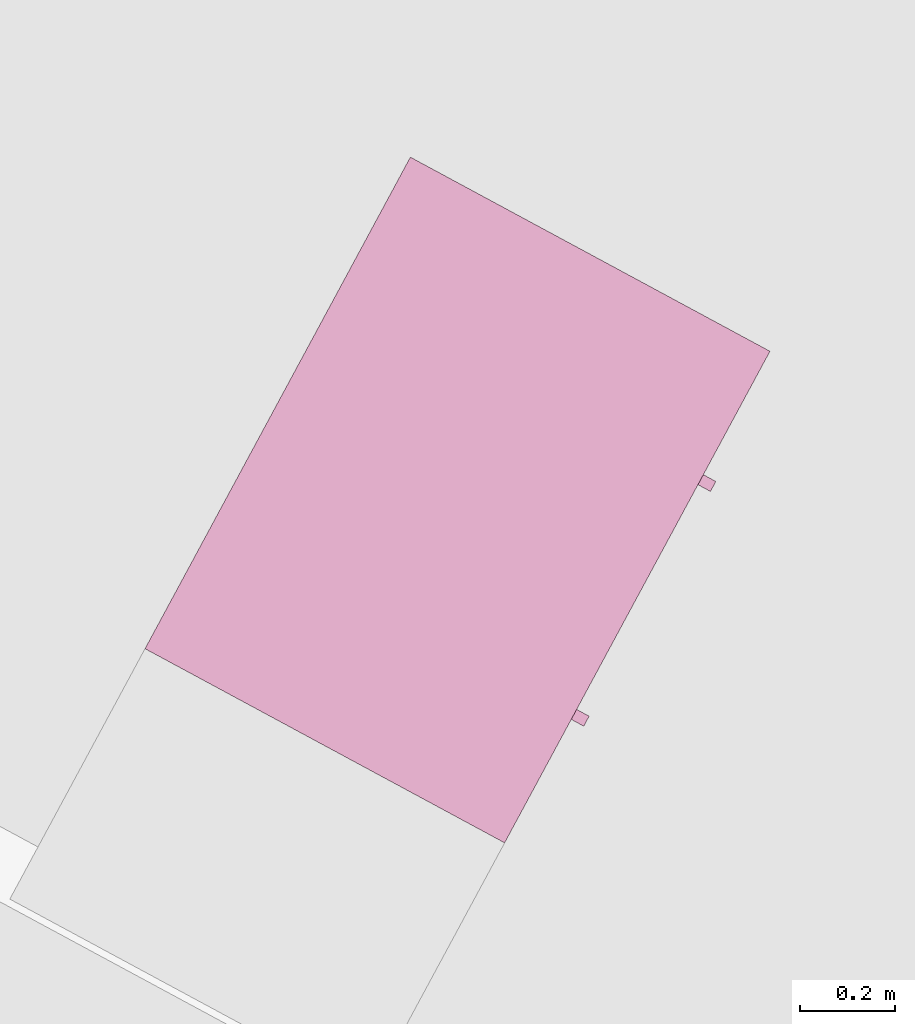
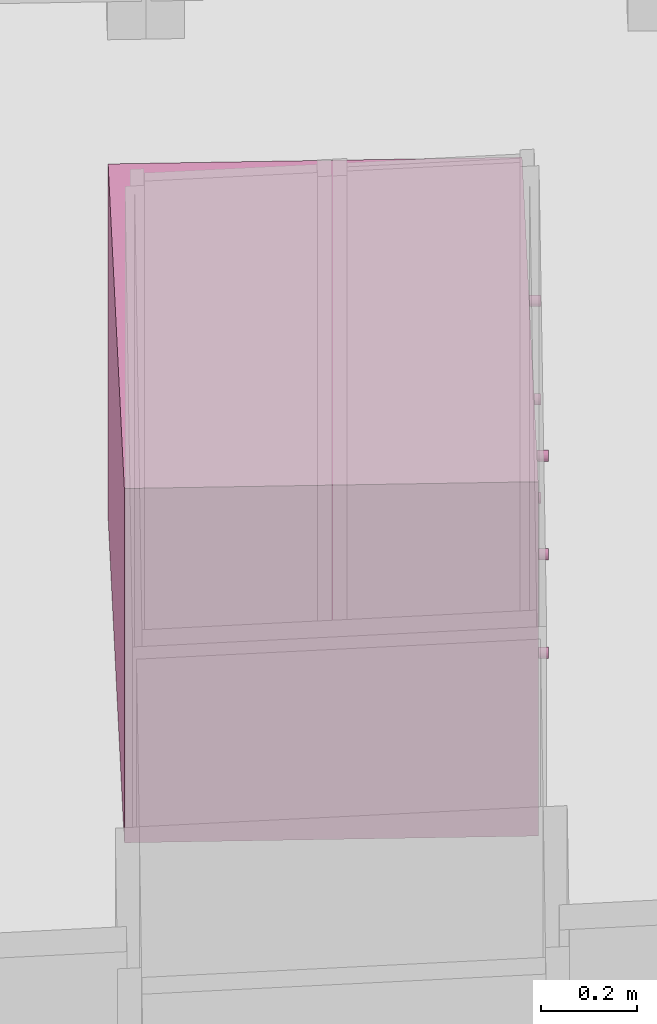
# One storey, part 29 of 48: 1 furnishing.
"""IFC2X3 building model written with IfcOpenShell, lengths in metres."""

from ifc_helpers import new_model, entity, si_unit, converted_unit, derived_unit, money_unit, direction, frame, origin_with_axes, place, context, subcontext, project, spatial, faceted_brep, type_object, element, save


model = new_model("IFC2X3")

# Units and contexts
model_context = context("Model", 3, precision=1e-05, world=origin_with_axes(), true_north=direction((0.0, 1.0)))
body_context = subcontext(model_context, "Body", "Model", "MODEL_VIEW")
ifc_project = project(units=[si_unit("LENGTHUNIT", "METRE"), si_unit("AREAUNIT", "SQUARE_METRE"), si_unit("VOLUMEUNIT", "CUBIC_METRE"), converted_unit("PLANEANGLEUNIT", "DEGREE", entity("IfcPlaneAngleMeasure", 0.0174532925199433), si_unit("PLANEANGLEUNIT", "RADIAN"), dimensions=[0, 0, 0, 0, 0, 0, 0]), money_unit("EUR"), converted_unit("TIMEUNIT", "Year", entity("IfcTimeMeasure", 31556926.0), si_unit("TIMEUNIT", "SECOND"), dimensions=[0, 0, 1, 0, 0, 0, 0]), si_unit("MASSUNIT", "GRAM", prefix="KILO"), si_unit("THERMODYNAMICTEMPERATUREUNIT", "DEGREE_CELSIUS"), si_unit("LUMINOUSINTENSITYUNIT", "LUMEN"), si_unit("ENERGYUNIT", "JOULE", prefix="MEGA"), derived_unit("THERMALCONDUCTANCEUNIT", [(si_unit("POWERUNIT", "WATT"), 1), (si_unit("LENGTHUNIT", "METRE"), -1), (si_unit("THERMODYNAMICTEMPERATUREUNIT", "KELVIN"), -1)]), derived_unit("SPECIFICHEATCAPACITYUNIT", [(si_unit("ENERGYUNIT", "JOULE"), 1), (si_unit("MASSUNIT", "GRAM", prefix="KILO"), -1), (si_unit("THERMODYNAMICTEMPERATUREUNIT", "KELVIN"), -1)]), derived_unit("MASSDENSITYUNIT", [(si_unit("MASSUNIT", "GRAM", prefix="KILO"), 1), (si_unit("VOLUMEUNIT", "CUBIC_METRE"), -1)])], contexts=[model_context])

# Site, building, storey
site_placement = place(None, frame((-3.949935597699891, 1.740105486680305, 0.0), z_axis=(0.0, 0.0, 1.0), x_axis=(0.8799804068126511, -0.475009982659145, 0.0)))
site = spatial("IfcSite", under=ifc_project, at=site_placement, Name="Gelände", CompositionType="ELEMENT")
building_placement = place(site_placement, origin_with_axes())
building = spatial("IfcBuilding", under=site, at=building_placement, Name="Gebäude", CompositionType="ELEMENT")
storey_placement = place(building_placement, frame((0.0, 0.0, 4.55), z_axis=(0.0, 0.0, 1.0), x_axis=(1.0, 0.0, 0.0)))
storey = spatial("IfcBuildingStorey", under=building, at=storey_placement, Name="Staffelgeschoss", CompositionType="ELEMENT", Elevation=4.55)

# Furnishing
furnishing_element_type = type_object("IfcFurnishingElementType", Name="Kommode 26")
furnishing_placement = place(storey_placement, frame((14.27822566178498, 2.239997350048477, 0.0), z_axis=(0.0, 0.0, 1.0), x_axis=(0.0, 1.0, 0.0)))
element("IfcFurnishingElement", 1, at=furnishing_placement, inside=storey, type_object=furnishing_element_type, Name="Objekt-0098", context=body_context, shape_type="Brep", body=[
    faceted_brep([(0.025, 0.0, 0.0), (0.0, 0.0, 0.0), (0.0, 0.8618297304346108, 0.0), (0.025, 0.8618297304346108, 0.0), (0.025, 0.0, 0.875), (0.0, 0.0, 0.875), (0.0, 0.8618297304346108, 0.875), (0.025, 0.8618297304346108, 0.875)], [[[0, 1, 2, 3]], [[1, 0, 4, 5]], [[2, 1, 5, 6]], [[3, 2, 6, 7]], [[0, 3, 7, 4]], [[5, 4, 7, 6]]]),
    faceted_brep([(1.153063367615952, 0.02, 0.0), (0.025, 0.02, 0.0), (0.025, 0.045, 0.0), (1.153063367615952, 0.045, 0.0), (1.153063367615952, 0.02, 0.11), (0.025, 0.02, 0.11), (0.025, 0.045, 0.11), (1.153063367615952, 0.045, 0.11)], [[[0, 1, 2, 3]], [[1, 0, 4, 5]], [[2, 1, 5, 6]], [[3, 2, 6, 7]], [[0, 3, 7, 4]], [[5, 4, 7, 6]]]),
    faceted_brep([(1.153063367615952, 0.8368297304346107, 0.0), (0.025, 0.8368297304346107, 0.0), (0.025, 0.8618297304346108, 0.0), (1.153063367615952, 0.8618297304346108, 0.0), (1.153063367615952, 0.8368297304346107, 0.11), (0.025, 0.8368297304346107, 0.11), (0.025, 0.8618297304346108, 0.11), (1.153063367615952, 0.8618297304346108, 0.11)], [[[0, 1, 2, 3]], [[1, 0, 4, 5]], [[2, 1, 5, 6]], [[3, 2, 6, 7]], [[0, 3, 7, 4]], [[5, 4, 7, 6]]]),
    faceted_brep([(1.153063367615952, 0.0, 0.11), (0.025, 0.0, 0.11), (0.025, 0.8618297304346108, 0.11), (1.153063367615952, 0.8618297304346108, 0.11), (1.153063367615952, 0.0, 0.125), (0.025, 0.0, 0.125), (0.025, 0.8618297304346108, 0.125), (1.153063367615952, 0.8618297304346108, 0.125)], [[[0, 1, 2, 3]], [[1, 0, 4, 5]], [[2, 1, 5, 6]], [[3, 2, 6, 7]], [[0, 3, 7, 4]], [[5, 4, 7, 6]]]),
    faceted_brep([(1.153063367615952, 0.8568297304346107, 0.125), (0.025, 0.8568297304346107, 0.125), (0.025, 0.8618297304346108, 0.125), (1.153063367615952, 0.8618297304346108, 0.125), (1.153063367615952, 0.8568297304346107, 0.875), (0.025, 0.8568297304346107, 0.875), (0.025, 0.8618297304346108, 0.875), (1.153063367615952, 0.8618297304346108, 0.875)], [[[0, 1, 2, 3]], [[1, 0, 4, 5]], [[2, 1, 5, 6]], [[3, 2, 6, 7]], [[0, 3, 7, 4]], [[5, 4, 7, 6]]]),
    faceted_brep([(1.178063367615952, 0.0, 0.0), (1.153063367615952, 0.0, 0.0), (1.153063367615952, 0.8618297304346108, 0.0), (1.178063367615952, 0.8618297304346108, 0.0), (1.178063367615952, 0.0, 0.875), (1.153063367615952, 0.0, 0.875), (1.153063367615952, 0.8618297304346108, 0.875), (1.178063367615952, 0.8618297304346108, 0.875)], [[[0, 1, 2, 3]], [[1, 0, 4, 5]], [[2, 1, 5, 6]], [[3, 2, 6, 7]], [[0, 3, 7, 4]], [[5, 4, 7, 6]]]),
    faceted_brep([(1.151563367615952, 0.02, 0.1265), (0.0265, 0.02, 0.1265), (0.0265, 0.8553297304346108, 0.1265), (1.151563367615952, 0.8553297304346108, 0.1265), (1.151563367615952, 0.02, 0.1465), (0.0265, 0.02, 0.1465), (0.0265, 0.8553297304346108, 0.1465), (1.151563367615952, 0.8553297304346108, 0.1465)], [[[0, 1, 2, 3]], [[1, 0, 4, 5]], [[2, 1, 5, 6]], [[3, 2, 6, 7]], [[0, 3, 7, 4]], [[5, 4, 7, 6]]]),
    faceted_brep([(0.0465, 0.02, 0.1465), (0.0265, 0.02, 0.1465), (0.0265, 0.8553297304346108, 0.1465), (0.0465, 0.8553297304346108, 0.1465), (0.0465, 0.02, 0.3735), (0.0265, 0.02, 0.3735), (0.0265, 0.8553297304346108, 0.3735), (0.0465, 0.8553297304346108, 0.3735)], [[[0, 1, 2, 3]], [[1, 0, 4, 5]], [[2, 1, 5, 6]], [[3, 2, 6, 7]], [[0, 3, 7, 4]], [[5, 4, 7, 6]]]),
    faceted_brep([(1.151563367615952, 0.02, 0.1465), (1.131563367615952, 0.02, 0.1465), (1.131563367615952, 0.8553297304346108, 0.1465), (1.151563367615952, 0.8553297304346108, 0.1465), (1.151563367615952, 0.02, 0.3735), (1.131563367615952, 0.02, 0.3735), (1.131563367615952, 0.8553297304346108, 0.3735), (1.151563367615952, 0.8553297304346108, 0.3735)], [[[0, 1, 2, 3]], [[1, 0, 4, 5]], [[2, 1, 5, 6]], [[3, 2, 6, 7]], [[0, 3, 7, 4]], [[5, 4, 7, 6]]]),
    faceted_brep([(1.131563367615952, 0.8353297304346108, 0.1465), (0.0465, 0.8353297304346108, 0.1465), (0.0465, 0.8553297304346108, 0.1465), (1.131563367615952, 0.8553297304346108, 0.1465), (1.131563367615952, 0.8353297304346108, 0.3735), (0.0465, 0.8353297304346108, 0.3735), (0.0465, 0.8553297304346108, 0.3735), (1.131563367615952, 0.8553297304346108, 0.3735)], [[[0, 1, 2, 3]], [[1, 0, 4, 5]], [[2, 1, 5, 6]], [[3, 2, 6, 7]], [[0, 3, 7, 4]], [[5, 4, 7, 6]]]),
    faceted_brep([(0.3193569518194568, 0.0, 0.2468941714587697), (0.3181581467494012, 0.0, 0.244), (0.3162511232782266, 0.0, 0.2415147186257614), (0.313765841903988, 0.0, 0.2396076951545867), (0.3108716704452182, 0.0, 0.2384088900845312), (0.307765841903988, 0.0, 0.238), (0.3046600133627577, 0.0, 0.2384088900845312), (0.301765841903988, 0.0, 0.2396076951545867), (0.2992805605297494, 0.0, 0.2415147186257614), (0.2973735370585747, 0.0, 0.244), (0.2961747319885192, 0.0, 0.2468941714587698), (0.295765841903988, 0.0, 0.25), (0.2961747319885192, 0.0, 0.2531058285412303), (0.2973735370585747, 0.0, 0.256), (0.2992805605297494, 0.0, 0.2584852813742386), (0.301765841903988, 0.0, 0.2603923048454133), (0.3046600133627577, 0.0, 0.2615911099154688), (0.307765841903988, 0.0, 0.262), (0.3108716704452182, 0.0, 0.2615911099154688), (0.313765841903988, 0.0, 0.2603923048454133), (0.3162511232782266, 0.0, 0.2584852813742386), (0.3181581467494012, 0.0, 0.256), (0.3193569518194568, 0.0, 0.2531058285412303), (0.319765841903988, 0.0, 0.25), (0.3193569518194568, -0.02999999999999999, 0.2468941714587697), (0.3181581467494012, -0.02999999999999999, 0.244), (0.3162511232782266, -0.02999999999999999, 0.2415147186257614), (0.313765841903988, -0.02999999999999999, 0.2396076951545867), (0.3108716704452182, -0.02999999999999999, 0.2384088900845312), (0.307765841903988, -0.02999999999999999, 0.238), (0.3046600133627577, -0.02999999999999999, 0.2384088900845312), (0.301765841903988, -0.02999999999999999, 0.2396076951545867), (0.2992805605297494, -0.02999999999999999, 0.2415147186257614), (0.2973735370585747, -0.02999999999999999, 0.244), (0.2961747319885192, -0.02999999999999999, 0.2468941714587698), (0.295765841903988, -0.02999999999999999, 0.25), (0.2961747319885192, -0.02999999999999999, 0.2531058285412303), (0.2973735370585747, -0.02999999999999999, 0.256), (0.2992805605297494, -0.02999999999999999, 0.2584852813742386), (0.301765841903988, -0.02999999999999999, 0.2603923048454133), (0.3046600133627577, -0.02999999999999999, 0.2615911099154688), (0.307765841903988, -0.02999999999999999, 0.262), (0.3108716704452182, -0.02999999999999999, 0.2615911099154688), (0.313765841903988, -0.02999999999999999, 0.2603923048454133), (0.3162511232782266, -0.02999999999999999, 0.2584852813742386), (0.3181581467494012, -0.02999999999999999, 0.256), (0.3193569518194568, -0.02999999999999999, 0.2531058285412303), (0.319765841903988, -0.02999999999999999, 0.25)], [[[0, 1, 2, 3, 4, 5, 6, 7, 8, 9, 10, 11, 12, 13, 14, 15, 16, 17, 18, 19, 20, 21, 22, 23]], [[1, 0, 24, 25]], [[2, 1, 25, 26]], [[3, 2, 26, 27]], [[4, 3, 27, 28]], [[5, 4, 28, 29]], [[6, 5, 29, 30]], [[7, 6, 30, 31]], [[8, 7, 31, 32]], [[9, 8, 32, 33]], [[10, 9, 33, 34]], [[11, 10, 34, 35]], [[12, 11, 35, 36]], [[13, 12, 36, 37]], [[14, 13, 37, 38]], [[15, 14, 38, 39]], [[16, 15, 39, 40]], [[17, 16, 40, 41]], [[18, 17, 41, 42]], [[19, 18, 42, 43]], [[20, 19, 43, 44]], [[21, 20, 44, 45]], [[22, 21, 45, 46]], [[23, 22, 46, 47]], [[0, 23, 47, 24]], [[24, 47, 46, 45, 44, 43, 42, 41, 40, 39, 38, 37, 36, 35, 34, 33, 32, 31, 30, 29, 28, 27, 26, 25]]]),
    faceted_brep([(0.858706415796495, 0.0, 0.2468941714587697), (0.8582975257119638, 0.0, 0.25), (0.858706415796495, 0.0, 0.2531058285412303), (0.8599052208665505, 0.0, 0.256), (0.8618122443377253, 0.0, 0.2584852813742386), (0.8642975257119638, 0.0, 0.2603923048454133), (0.8671916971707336, 0.0, 0.2615911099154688), (0.8702975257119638, 0.0, 0.262), (0.873403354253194, 0.0, 0.2615911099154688), (0.8762975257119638, 0.0, 0.2603923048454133), (0.8787828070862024, 0.0, 0.2584852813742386), (0.8806898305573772, 0.0, 0.256), (0.8818886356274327, 0.0, 0.2531058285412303), (0.8822975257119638, 0.0, 0.25), (0.8818886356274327, 0.0, 0.2468941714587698), (0.8806898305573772, 0.0, 0.244), (0.8787828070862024, 0.0, 0.2415147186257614), (0.8762975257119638, 0.0, 0.2396076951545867), (0.873403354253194, 0.0, 0.2384088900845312), (0.8702975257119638, 0.0, 0.238), (0.8671916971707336, 0.0, 0.2384088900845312), (0.8642975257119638, 0.0, 0.2396076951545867), (0.8618122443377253, 0.0, 0.2415147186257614), (0.8599052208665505, 0.0, 0.244), (0.858706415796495, -0.02999999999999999, 0.2468941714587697), (0.8582975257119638, -0.02999999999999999, 0.25), (0.858706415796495, -0.02999999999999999, 0.2531058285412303), (0.8599052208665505, -0.02999999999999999, 0.256), (0.8618122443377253, -0.02999999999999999, 0.2584852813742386), (0.8642975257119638, -0.02999999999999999, 0.2603923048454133), (0.8671916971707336, -0.02999999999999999, 0.2615911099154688), (0.8702975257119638, -0.02999999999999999, 0.262), (0.873403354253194, -0.02999999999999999, 0.2615911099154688), (0.8762975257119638, -0.02999999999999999, 0.2603923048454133), (0.8787828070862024, -0.02999999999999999, 0.2584852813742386), (0.8806898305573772, -0.02999999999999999, 0.256), (0.8818886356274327, -0.02999999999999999, 0.2531058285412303), (0.8822975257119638, -0.02999999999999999, 0.25), (0.8818886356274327, -0.02999999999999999, 0.2468941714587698), (0.8806898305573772, -0.02999999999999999, 0.244), (0.8787828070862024, -0.02999999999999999, 0.2415147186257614), (0.8762975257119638, -0.02999999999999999, 0.2396076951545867), (0.873403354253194, -0.02999999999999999, 0.2384088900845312), (0.8702975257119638, -0.02999999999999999, 0.238), (0.8671916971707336, -0.02999999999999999, 0.2384088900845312), (0.8642975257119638, -0.02999999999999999, 0.2396076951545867), (0.8618122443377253, -0.02999999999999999, 0.2415147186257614), (0.8599052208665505, -0.02999999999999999, 0.244)], [[[0, 1, 2, 3, 4, 5, 6, 7, 8, 9, 10, 11, 12, 13, 14, 15, 16, 17, 18, 19, 20, 21, 22, 23]], [[0, 24, 25, 1]], [[1, 25, 26, 2]], [[2, 26, 27, 3]], [[3, 27, 28, 4]], [[4, 28, 29, 5]], [[5, 29, 30, 6]], [[6, 30, 31, 7]], [[7, 31, 32, 8]], [[8, 32, 33, 9]], [[9, 33, 34, 10]], [[10, 34, 35, 11]], [[11, 35, 36, 12]], [[12, 36, 37, 13]], [[13, 37, 38, 14]], [[14, 38, 39, 15]], [[15, 39, 40, 16]], [[16, 40, 41, 17]], [[17, 41, 42, 18]], [[18, 42, 43, 19]], [[19, 43, 44, 20]], [[20, 44, 45, 21]], [[21, 45, 46, 22]], [[22, 46, 47, 23]], [[23, 47, 24, 0]], [[24, 47, 46, 45, 44, 43, 42, 41, 40, 39, 38, 37, 36, 35, 34, 33, 32, 31, 30, 29, 28, 27, 26, 25]]]),
    faceted_brep([(0.0265, 0.02, 0.1265), (1.151563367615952, 0.02, 0.1265), (1.151563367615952, 0.0, 0.1265), (0.0265, 0.0, 0.1265), (0.0265, 0.02000000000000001, 0.3735), (1.151563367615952, 0.02000000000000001, 0.3735), (1.151563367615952, 0.0, 0.3735), (0.0265, 0.0, 0.3735)], [[[0, 1, 2, 3]], [[0, 4, 5, 1]], [[1, 5, 6, 2]], [[3, 2, 6, 7]], [[4, 0, 3, 7]], [[5, 4, 7, 6]]]),
    faceted_brep([(1.151563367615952, 0.02, 0.3765), (0.0265, 0.02, 0.3765), (0.0265, 0.8553297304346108, 0.3765), (1.151563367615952, 0.8553297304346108, 0.3765), (1.151563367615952, 0.02, 0.3965), (0.0265, 0.02, 0.3965), (0.0265, 0.8553297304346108, 0.3965), (1.151563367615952, 0.8553297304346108, 0.3965)], [[[0, 1, 2, 3]], [[1, 0, 4, 5]], [[2, 1, 5, 6]], [[3, 2, 6, 7]], [[0, 3, 7, 4]], [[5, 4, 7, 6]]]),
    faceted_brep([(0.0465, 0.02, 0.3965), (0.0265, 0.02, 0.3965), (0.0265, 0.8553297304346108, 0.3965), (0.0465, 0.8553297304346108, 0.3965), (0.0465, 0.02, 0.6235), (0.0265, 0.02, 0.6235), (0.0265, 0.8553297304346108, 0.6235), (0.0465, 0.8553297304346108, 0.6235)], [[[0, 1, 2, 3]], [[1, 0, 4, 5]], [[2, 1, 5, 6]], [[3, 2, 6, 7]], [[0, 3, 7, 4]], [[5, 4, 7, 6]]]),
    faceted_brep([(1.151563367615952, 0.02, 0.3965), (1.131563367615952, 0.02, 0.3965), (1.131563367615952, 0.8553297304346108, 0.3965), (1.151563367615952, 0.8553297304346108, 0.3965), (1.151563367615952, 0.02, 0.6235), (1.131563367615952, 0.02, 0.6235), (1.131563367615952, 0.8553297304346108, 0.6235), (1.151563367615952, 0.8553297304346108, 0.6235)], [[[0, 1, 2, 3]], [[1, 0, 4, 5]], [[2, 1, 5, 6]], [[3, 2, 6, 7]], [[0, 3, 7, 4]], [[5, 4, 7, 6]]]),
    faceted_brep([(1.131563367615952, 0.8353297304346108, 0.3965), (0.0465, 0.8353297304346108, 0.3965), (0.0465, 0.8553297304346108, 0.3965), (1.131563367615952, 0.8553297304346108, 0.3965), (1.131563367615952, 0.8353297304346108, 0.6235), (0.0465, 0.8353297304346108, 0.6235), (0.0465, 0.8553297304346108, 0.6235), (1.131563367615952, 0.8553297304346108, 0.6235)], [[[0, 1, 2, 3]], [[1, 0, 4, 5]], [[2, 1, 5, 6]], [[3, 2, 6, 7]], [[0, 3, 7, 4]], [[5, 4, 7, 6]]]),
    faceted_brep([(0.3193569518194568, 0.0, 0.4968941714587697), (0.3181581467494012, 0.0, 0.494), (0.3162511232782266, 0.0, 0.4915147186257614), (0.313765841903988, 0.0, 0.4896076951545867), (0.3108716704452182, 0.0, 0.4884088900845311), (0.307765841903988, 0.0, 0.488), (0.3046600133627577, 0.0, 0.4884088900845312), (0.301765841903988, 0.0, 0.4896076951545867), (0.2992805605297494, 0.0, 0.4915147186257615), (0.2973735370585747, 0.0, 0.494), (0.2961747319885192, 0.0, 0.4968941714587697), (0.295765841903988, 0.0, 0.5), (0.2961747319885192, 0.0, 0.5031058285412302), (0.2973735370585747, 0.0, 0.506), (0.2992805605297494, 0.0, 0.5084852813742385), (0.301765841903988, 0.0, 0.5103923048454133), (0.3046600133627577, 0.0, 0.5115911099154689), (0.307765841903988, 0.0, 0.512), (0.3108716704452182, 0.0, 0.5115911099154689), (0.313765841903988, 0.0, 0.5103923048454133), (0.3162511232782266, 0.0, 0.5084852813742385), (0.3181581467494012, 0.0, 0.506), (0.3193569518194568, 0.0, 0.5031058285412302), (0.319765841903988, 0.0, 0.5), (0.3193569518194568, -0.02999999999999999, 0.4968941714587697), (0.3181581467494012, -0.02999999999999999, 0.494), (0.3162511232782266, -0.02999999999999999, 0.4915147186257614), (0.313765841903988, -0.02999999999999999, 0.4896076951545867), (0.3108716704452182, -0.02999999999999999, 0.4884088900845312), (0.307765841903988, -0.02999999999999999, 0.488), (0.3046600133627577, -0.02999999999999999, 0.4884088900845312), (0.301765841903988, -0.02999999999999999, 0.4896076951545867), (0.2992805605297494, -0.02999999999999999, 0.4915147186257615), (0.2973735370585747, -0.02999999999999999, 0.494), (0.2961747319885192, -0.02999999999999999, 0.4968941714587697), (0.295765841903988, -0.02999999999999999, 0.5), (0.2961747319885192, -0.02999999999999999, 0.5031058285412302), (0.2973735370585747, -0.02999999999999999, 0.506), (0.2992805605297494, -0.02999999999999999, 0.5084852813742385), (0.301765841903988, -0.02999999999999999, 0.5103923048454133), (0.3046600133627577, -0.02999999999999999, 0.5115911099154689), (0.307765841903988, -0.02999999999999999, 0.512), (0.3108716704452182, -0.02999999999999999, 0.5115911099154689), (0.313765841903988, -0.02999999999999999, 0.5103923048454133), (0.3162511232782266, -0.02999999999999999, 0.5084852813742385), (0.3181581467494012, -0.02999999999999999, 0.506), (0.3193569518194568, -0.02999999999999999, 0.5031058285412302), (0.319765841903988, -0.02999999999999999, 0.5)], [[[0, 1, 2, 3, 4, 5, 6, 7, 8, 9, 10, 11, 12, 13, 14, 15, 16, 17, 18, 19, 20, 21, 22, 23]], [[1, 0, 24, 25]], [[2, 1, 25, 26]], [[3, 2, 26, 27]], [[4, 3, 27, 28]], [[5, 4, 28, 29]], [[6, 5, 29, 30]], [[7, 6, 30, 31]], [[8, 7, 31, 32]], [[9, 8, 32, 33]], [[10, 9, 33, 34]], [[11, 10, 34, 35]], [[12, 11, 35, 36]], [[13, 12, 36, 37]], [[14, 13, 37, 38]], [[15, 14, 38, 39]], [[16, 15, 39, 40]], [[17, 16, 40, 41]], [[18, 17, 41, 42]], [[19, 18, 42, 43]], [[20, 19, 43, 44]], [[21, 20, 44, 45]], [[22, 21, 45, 46]], [[23, 22, 46, 47]], [[0, 23, 47, 24]], [[24, 47, 46, 45, 44, 43, 42, 41, 40, 39, 38, 37, 36, 35, 34, 33, 32, 31, 30, 29, 28, 27, 26, 25]]]),
    faceted_brep([(0.858706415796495, 0.0, 0.4968941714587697), (0.8582975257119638, 0.0, 0.5), (0.858706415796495, 0.0, 0.5031058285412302), (0.8599052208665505, 0.0, 0.506), (0.8618122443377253, 0.0, 0.5084852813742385), (0.8642975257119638, 0.0, 0.5103923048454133), (0.8671916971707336, 0.0, 0.5115911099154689), (0.8702975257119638, 0.0, 0.512), (0.873403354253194, 0.0, 0.5115911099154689), (0.8762975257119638, 0.0, 0.5103923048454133), (0.8787828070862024, 0.0, 0.5084852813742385), (0.8806898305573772, 0.0, 0.506), (0.8818886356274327, 0.0, 0.5031058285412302), (0.8822975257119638, 0.0, 0.5), (0.8818886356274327, 0.0, 0.4968941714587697), (0.8806898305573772, 0.0, 0.494), (0.8787828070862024, 0.0, 0.4915147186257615), (0.8762975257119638, 0.0, 0.4896076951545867), (0.873403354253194, 0.0, 0.4884088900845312), (0.8702975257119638, 0.0, 0.488), (0.8671916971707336, 0.0, 0.4884088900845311), (0.8642975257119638, 0.0, 0.4896076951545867), (0.8618122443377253, 0.0, 0.4915147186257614), (0.8599052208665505, 0.0, 0.494), (0.858706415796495, -0.02999999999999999, 0.4968941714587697), (0.8582975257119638, -0.02999999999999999, 0.5), (0.858706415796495, -0.02999999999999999, 0.5031058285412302), (0.8599052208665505, -0.02999999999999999, 0.506), (0.8618122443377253, -0.02999999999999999, 0.5084852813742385), (0.8642975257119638, -0.02999999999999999, 0.5103923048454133), (0.8671916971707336, -0.02999999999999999, 0.5115911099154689), (0.8702975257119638, -0.02999999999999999, 0.512), (0.873403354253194, -0.02999999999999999, 0.5115911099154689), (0.8762975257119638, -0.02999999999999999, 0.5103923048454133), (0.8787828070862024, -0.02999999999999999, 0.5084852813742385), (0.8806898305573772, -0.02999999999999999, 0.506), (0.8818886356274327, -0.02999999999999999, 0.5031058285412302), (0.8822975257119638, -0.02999999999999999, 0.5), (0.8818886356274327, -0.02999999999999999, 0.4968941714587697), (0.8806898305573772, -0.02999999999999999, 0.494), (0.8787828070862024, -0.02999999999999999, 0.4915147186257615), (0.8762975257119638, -0.02999999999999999, 0.4896076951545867), (0.873403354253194, -0.02999999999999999, 0.4884088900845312), (0.8702975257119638, -0.02999999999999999, 0.488), (0.8671916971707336, -0.02999999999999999, 0.4884088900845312), (0.8642975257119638, -0.02999999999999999, 0.4896076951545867), (0.8618122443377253, -0.02999999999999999, 0.4915147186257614), (0.8599052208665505, -0.02999999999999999, 0.494)], [[[0, 1, 2, 3, 4, 5, 6, 7, 8, 9, 10, 11, 12, 13, 14, 15, 16, 17, 18, 19, 20, 21, 22, 23]], [[0, 24, 25, 1]], [[1, 25, 26, 2]], [[2, 26, 27, 3]], [[3, 27, 28, 4]], [[4, 28, 29, 5]], [[5, 29, 30, 6]], [[6, 30, 31, 7]], [[7, 31, 32, 8]], [[8, 32, 33, 9]], [[9, 33, 34, 10]], [[10, 34, 35, 11]], [[11, 35, 36, 12]], [[12, 36, 37, 13]], [[13, 37, 38, 14]], [[14, 38, 39, 15]], [[15, 39, 40, 16]], [[16, 40, 41, 17]], [[17, 41, 42, 18]], [[18, 42, 43, 19]], [[19, 43, 44, 20]], [[20, 44, 45, 21]], [[21, 45, 46, 22]], [[22, 46, 47, 23]], [[23, 47, 24, 0]], [[24, 47, 46, 45, 44, 43, 42, 41, 40, 39, 38, 37, 36, 35, 34, 33, 32, 31, 30, 29, 28, 27, 26, 25]]]),
    faceted_brep([(0.0265, 0.02, 0.3765), (1.151563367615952, 0.02, 0.3765), (1.151563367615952, 0.0, 0.3765), (0.0265, 0.0, 0.3765), (0.0265, 0.02000000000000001, 0.6234999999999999), (1.151563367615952, 0.02000000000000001, 0.6234999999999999), (1.151563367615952, 0.0, 0.6234999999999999), (0.0265, 0.0, 0.6234999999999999)], [[[0, 1, 2, 3]], [[0, 4, 5, 1]], [[1, 5, 6, 2]], [[3, 2, 6, 7]], [[4, 0, 3, 7]], [[5, 4, 7, 6]]]),
    faceted_brep([(1.151563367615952, 0.02, 0.6265), (0.0265, 0.02, 0.6265), (0.0265, 0.8553297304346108, 0.6265), (1.151563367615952, 0.8553297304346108, 0.6265), (1.151563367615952, 0.02, 0.6465), (0.0265, 0.02, 0.6465), (0.0265, 0.8553297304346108, 0.6465), (1.151563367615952, 0.8553297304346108, 0.6465)], [[[0, 1, 2, 3]], [[1, 0, 4, 5]], [[2, 1, 5, 6]], [[3, 2, 6, 7]], [[0, 3, 7, 4]], [[5, 4, 7, 6]]]),
    faceted_brep([(0.0465, 0.02, 0.6465), (0.0265, 0.02, 0.6465), (0.0265, 0.8553297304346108, 0.6465), (0.0465, 0.8553297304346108, 0.6465), (0.0465, 0.02, 0.8734999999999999), (0.0265, 0.02, 0.8734999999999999), (0.0265, 0.8553297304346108, 0.8734999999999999), (0.0465, 0.8553297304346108, 0.8734999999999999)], [[[0, 1, 2, 3]], [[1, 0, 4, 5]], [[2, 1, 5, 6]], [[3, 2, 6, 7]], [[0, 3, 7, 4]], [[5, 4, 7, 6]]]),
    faceted_brep([(1.151563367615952, 0.02, 0.6465), (1.131563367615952, 0.02, 0.6465), (1.131563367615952, 0.8553297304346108, 0.6465), (1.151563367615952, 0.8553297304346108, 0.6465), (1.151563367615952, 0.02, 0.8734999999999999), (1.131563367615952, 0.02, 0.8734999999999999), (1.131563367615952, 0.8553297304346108, 0.8734999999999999), (1.151563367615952, 0.8553297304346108, 0.8734999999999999)], [[[0, 1, 2, 3]], [[1, 0, 4, 5]], [[2, 1, 5, 6]], [[3, 2, 6, 7]], [[0, 3, 7, 4]], [[5, 4, 7, 6]]]),
    faceted_brep([(1.131563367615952, 0.8353297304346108, 0.6465), (0.0465, 0.8353297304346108, 0.6465), (0.0465, 0.8553297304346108, 0.6465), (1.131563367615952, 0.8553297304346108, 0.6465), (1.131563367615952, 0.8353297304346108, 0.8734999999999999), (0.0465, 0.8353297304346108, 0.8734999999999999), (0.0465, 0.8553297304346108, 0.8734999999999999), (1.131563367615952, 0.8553297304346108, 0.8734999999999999)], [[[0, 1, 2, 3]], [[1, 0, 4, 5]], [[2, 1, 5, 6]], [[3, 2, 6, 7]], [[0, 3, 7, 4]], [[5, 4, 7, 6]]]),
    faceted_brep([(0.3193569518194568, 0.0, 0.7468941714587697), (0.3181581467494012, 0.0, 0.744), (0.3162511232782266, 0.0, 0.7415147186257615), (0.313765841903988, 0.0, 0.7396076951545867), (0.3108716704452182, 0.0, 0.7384088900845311), (0.307765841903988, 0.0, 0.738), (0.3046600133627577, 0.0, 0.7384088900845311), (0.301765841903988, 0.0, 0.7396076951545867), (0.2992805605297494, 0.0, 0.7415147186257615), (0.2973735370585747, 0.0, 0.744), (0.2961747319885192, 0.0, 0.7468941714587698), (0.295765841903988, 0.0, 0.75), (0.2961747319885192, 0.0, 0.7531058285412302), (0.2973735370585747, 0.0, 0.756), (0.2992805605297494, 0.0, 0.7584852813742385), (0.301765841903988, 0.0, 0.7603923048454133), (0.3046600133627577, 0.0, 0.7615911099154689), (0.307765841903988, 0.0, 0.762), (0.3108716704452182, 0.0, 0.7615911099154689), (0.313765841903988, 0.0, 0.7603923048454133), (0.3162511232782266, 0.0, 0.7584852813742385), (0.3181581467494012, 0.0, 0.756), (0.3193569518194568, 0.0, 0.7531058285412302), (0.319765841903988, 0.0, 0.75), (0.3193569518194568, -0.02999999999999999, 0.7468941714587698), (0.3181581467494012, -0.02999999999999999, 0.744), (0.3162511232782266, -0.02999999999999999, 0.7415147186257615), (0.313765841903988, -0.02999999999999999, 0.7396076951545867), (0.3108716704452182, -0.02999999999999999, 0.7384088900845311), (0.307765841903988, -0.02999999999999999, 0.738), (0.3046600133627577, -0.02999999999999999, 0.7384088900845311), (0.301765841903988, -0.02999999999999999, 0.7396076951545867), (0.2992805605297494, -0.02999999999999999, 0.7415147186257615), (0.2973735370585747, -0.02999999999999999, 0.744), (0.2961747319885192, -0.02999999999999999, 0.7468941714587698), (0.295765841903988, -0.02999999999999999, 0.75), (0.2961747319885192, -0.02999999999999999, 0.7531058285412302), (0.2973735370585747, -0.02999999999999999, 0.756), (0.2992805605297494, -0.02999999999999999, 0.7584852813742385), (0.301765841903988, -0.02999999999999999, 0.7603923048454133), (0.3046600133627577, -0.02999999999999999, 0.7615911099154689), (0.307765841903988, -0.02999999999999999, 0.762), (0.3108716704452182, -0.02999999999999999, 0.7615911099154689), (0.313765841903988, -0.02999999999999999, 0.7603923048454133), (0.3162511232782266, -0.02999999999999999, 0.7584852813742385), (0.3181581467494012, -0.02999999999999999, 0.756), (0.3193569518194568, -0.02999999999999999, 0.7531058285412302), (0.319765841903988, -0.02999999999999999, 0.75)], [[[0, 1, 2, 3, 4, 5, 6, 7, 8, 9, 10, 11, 12, 13, 14, 15, 16, 17, 18, 19, 20, 21, 22, 23]], [[1, 0, 24, 25]], [[2, 1, 25, 26]], [[3, 2, 26, 27]], [[4, 3, 27, 28]], [[5, 4, 28, 29]], [[6, 5, 29, 30]], [[7, 6, 30, 31]], [[8, 7, 31, 32]], [[9, 8, 32, 33]], [[10, 9, 33, 34]], [[11, 10, 34, 35]], [[12, 11, 35, 36]], [[13, 12, 36, 37]], [[14, 13, 37, 38]], [[15, 14, 38, 39]], [[16, 15, 39, 40]], [[17, 16, 40, 41]], [[18, 17, 41, 42]], [[19, 18, 42, 43]], [[20, 19, 43, 44]], [[21, 20, 44, 45]], [[22, 21, 45, 46]], [[23, 22, 46, 47]], [[0, 23, 47, 24]], [[24, 47, 46, 45, 44, 43, 42, 41, 40, 39, 38, 37, 36, 35, 34, 33, 32, 31, 30, 29, 28, 27, 26, 25]]]),
    faceted_brep([(0.858706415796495, 0.0, 0.7468941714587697), (0.8582975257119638, 0.0, 0.75), (0.858706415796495, 0.0, 0.7531058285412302), (0.8599052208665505, 0.0, 0.756), (0.8618122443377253, 0.0, 0.7584852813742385), (0.8642975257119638, 0.0, 0.7603923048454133), (0.8671916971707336, 0.0, 0.7615911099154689), (0.8702975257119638, 0.0, 0.762), (0.873403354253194, 0.0, 0.7615911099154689), (0.8762975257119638, 0.0, 0.7603923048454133), (0.8787828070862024, 0.0, 0.7584852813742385), (0.8806898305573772, 0.0, 0.756), (0.8818886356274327, 0.0, 0.7531058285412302), (0.8822975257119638, 0.0, 0.75), (0.8818886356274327, 0.0, 0.7468941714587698), (0.8806898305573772, 0.0, 0.744), (0.8787828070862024, 0.0, 0.7415147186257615), (0.8762975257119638, 0.0, 0.7396076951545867), (0.873403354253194, 0.0, 0.7384088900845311), (0.8702975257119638, 0.0, 0.738), (0.8671916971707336, 0.0, 0.7384088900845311), (0.8642975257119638, 0.0, 0.7396076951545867), (0.8618122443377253, 0.0, 0.7415147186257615), (0.8599052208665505, 0.0, 0.744), (0.858706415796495, -0.02999999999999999, 0.7468941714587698), (0.8582975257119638, -0.02999999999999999, 0.75), (0.858706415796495, -0.02999999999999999, 0.7531058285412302), (0.8599052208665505, -0.02999999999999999, 0.756), (0.8618122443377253, -0.02999999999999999, 0.7584852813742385), (0.8642975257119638, -0.02999999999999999, 0.7603923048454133), (0.8671916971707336, -0.02999999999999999, 0.7615911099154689), (0.8702975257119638, -0.02999999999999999, 0.762), (0.873403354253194, -0.02999999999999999, 0.7615911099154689), (0.8762975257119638, -0.02999999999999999, 0.7603923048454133), (0.8787828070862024, -0.02999999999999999, 0.7584852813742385), (0.8806898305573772, -0.02999999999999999, 0.756), (0.8818886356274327, -0.02999999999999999, 0.7531058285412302), (0.8822975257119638, -0.02999999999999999, 0.75), (0.8818886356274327, -0.02999999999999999, 0.7468941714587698), (0.8806898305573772, -0.02999999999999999, 0.744), (0.8787828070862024, -0.02999999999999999, 0.7415147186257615), (0.8762975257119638, -0.02999999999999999, 0.7396076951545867), (0.873403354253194, -0.02999999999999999, 0.7384088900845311), (0.8702975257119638, -0.02999999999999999, 0.738), (0.8671916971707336, -0.02999999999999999, 0.7384088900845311), (0.8642975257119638, -0.02999999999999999, 0.7396076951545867), (0.8618122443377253, -0.02999999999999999, 0.7415147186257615), (0.8599052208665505, -0.02999999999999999, 0.744)], [[[0, 1, 2, 3, 4, 5, 6, 7, 8, 9, 10, 11, 12, 13, 14, 15, 16, 17, 18, 19, 20, 21, 22, 23]], [[0, 24, 25, 1]], [[1, 25, 26, 2]], [[2, 26, 27, 3]], [[3, 27, 28, 4]], [[4, 28, 29, 5]], [[5, 29, 30, 6]], [[6, 30, 31, 7]], [[7, 31, 32, 8]], [[8, 32, 33, 9]], [[9, 33, 34, 10]], [[10, 34, 35, 11]], [[11, 35, 36, 12]], [[12, 36, 37, 13]], [[13, 37, 38, 14]], [[14, 38, 39, 15]], [[15, 39, 40, 16]], [[16, 40, 41, 17]], [[17, 41, 42, 18]], [[18, 42, 43, 19]], [[19, 43, 44, 20]], [[20, 44, 45, 21]], [[21, 45, 46, 22]], [[22, 46, 47, 23]], [[23, 47, 24, 0]], [[24, 47, 46, 45, 44, 43, 42, 41, 40, 39, 38, 37, 36, 35, 34, 33, 32, 31, 30, 29, 28, 27, 26, 25]]]),
    faceted_brep([(0.0265, 0.02, 0.6265), (1.151563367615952, 0.02, 0.6265), (1.151563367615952, 0.0, 0.6265), (0.0265, 0.0, 0.6265), (0.0265, 0.02000000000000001, 0.8734999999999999), (1.151563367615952, 0.02000000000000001, 0.8734999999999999), (1.151563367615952, 0.0, 0.8734999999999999), (0.0265, 0.0, 0.8734999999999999)], [[[0, 1, 2, 3]], [[0, 4, 5, 1]], [[1, 5, 6, 2]], [[3, 2, 6, 7]], [[4, 0, 3, 7]], [[5, 4, 7, 6]]]),
    faceted_brep([(1.178063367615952, 0.0, 0.875), (0.0, 0.0, 0.875), (0.0, 0.8618297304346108, 0.875), (1.178063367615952, 0.8618297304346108, 0.875), (1.178063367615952, 0.0, 0.9), (0.0, 0.0, 0.9), (0.0, 0.8618297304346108, 0.9), (1.178063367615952, 0.8618297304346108, 0.9)], [[[0, 1, 2, 3]], [[1, 0, 4, 5]], [[2, 1, 5, 6]], [[3, 2, 6, 7]], [[0, 3, 7, 4]], [[5, 4, 7, 6]]]),
])

save(model, "model.ifc")
